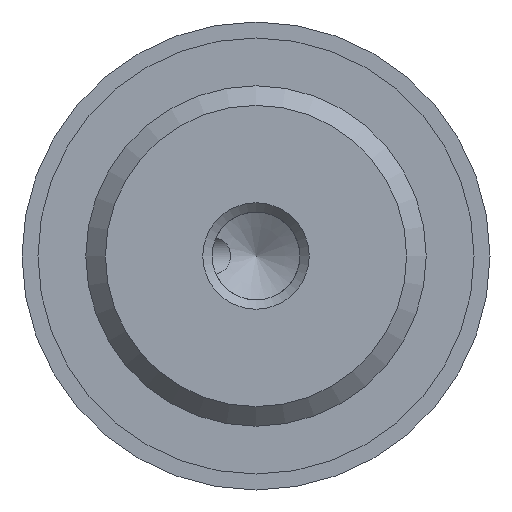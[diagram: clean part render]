
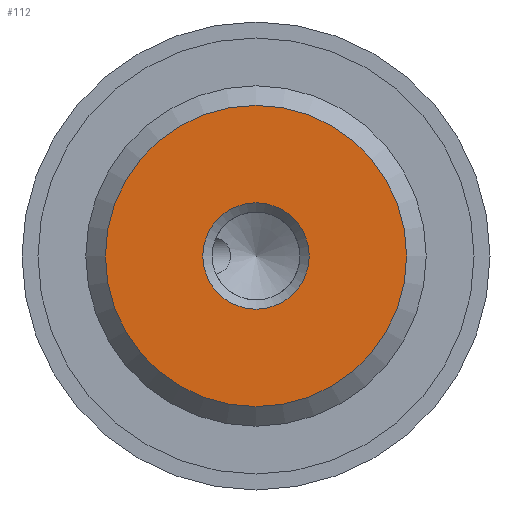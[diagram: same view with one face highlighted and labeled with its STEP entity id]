
A CAD part, front view. The second image highlights one B-rep face of the part: STEP entity #112.
In plain terms, the highlighted planar face has unit normal (0, -1, 0).
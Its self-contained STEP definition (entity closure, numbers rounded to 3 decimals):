
#112 = ADVANCED_FACE( '', ( #208, #209 ), #210, .F. );
#208 = FACE_BOUND( '', #330, .T. );
#209 = FACE_OUTER_BOUND( '', #331, .T. );
#210 = PLANE( '', #332 );
#330 = EDGE_LOOP( '', ( #652 ) );
#331 = EDGE_LOOP( '', ( #653 ) );
#332 = AXIS2_PLACEMENT_3D( '', #654, #655, #656 );
#652 = ORIENTED_EDGE( '', *, *, #874, .F. );
#653 = ORIENTED_EDGE( '', *, *, #876, .T. );
#654 = CARTESIAN_POINT( '', ( 7.08, 0., 0. ) );
#655 = DIRECTION( '', ( 0., 1., 0. ) );
#656 = DIRECTION( '', ( 0., 0., 1. ) );
#874 = EDGE_CURVE( '', #1066, #1066, #1067, .T. );
#876 = EDGE_CURVE( '', #1070, #1070, #1071, .T. );
#1066 = VERTEX_POINT( '', #1467 );
#1067 = CIRCLE( '', #1468, 2.5 );
#1070 = VERTEX_POINT( '', #1471 );
#1071 = CIRCLE( '', #1472, 7.08 );
#1467 = CARTESIAN_POINT( '', ( 2.5, 0., 0. ) );
#1468 = AXIS2_PLACEMENT_3D( '', #1603, #1604, #1605 );
#1471 = CARTESIAN_POINT( '', ( 0., 0., -7.08 ) );
#1472 = AXIS2_PLACEMENT_3D( '', #1609, #1610, #1611 );
#1603 = CARTESIAN_POINT( '', ( 0., 0., 0. ) );
#1604 = DIRECTION( '', ( 0., -1., 0. ) );
#1605 = DIRECTION( '', ( 1., 0., 0. ) );
#1609 = CARTESIAN_POINT( '', ( 0., 0., 0. ) );
#1610 = DIRECTION( '', ( 0., -1., 0. ) );
#1611 = DIRECTION( '', ( 0., 0., -1. ) );
